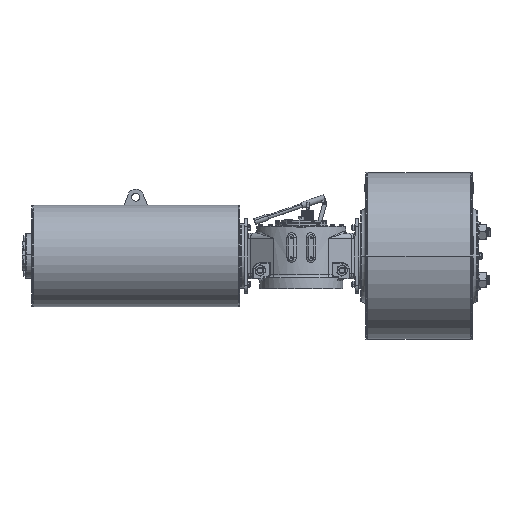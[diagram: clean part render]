
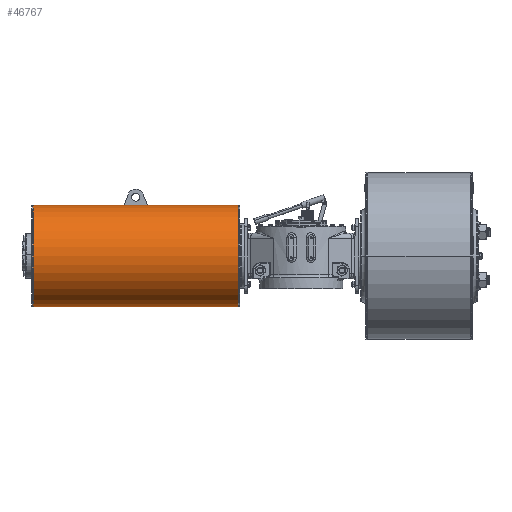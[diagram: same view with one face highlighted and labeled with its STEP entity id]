
A CAD part, front view. The second image highlights one B-rep face of the part: STEP entity #46767.
In plain terms, the highlighted cylindrical face has radius 254 mm (diameter 508 mm), a partial arc.
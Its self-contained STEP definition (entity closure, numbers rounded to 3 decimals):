
#3009 = ORIENTED_EDGE ( 'NONE', *, *, #31172, .T. ) ;
#3061 = DIRECTION ( 'NONE',  ( -1., 0., 0. ) ) ;
#3835 = CARTESIAN_POINT ( 'NONE',  ( -317.5, 135., 366.951 ) ) ;
#5102 = DIRECTION ( 'NONE',  ( -1., 0., 0. ) ) ;
#5151 = EDGE_CURVE ( 'NONE', #65228, #49301, #63353, .T. ) ;
#5231 = VECTOR ( 'NONE', #68768, 1000. ) ;
#8825 = DIRECTION ( 'NONE',  ( 0., 0., -1. ) ) ;
#10475 = CARTESIAN_POINT ( 'NONE',  ( -767.5, 135., 366.951 ) ) ;
#11567 = FACE_OUTER_BOUND ( 'NONE', #80695, .T. ) ;
#11813 = DIRECTION ( 'NONE',  ( 0., 0., -1. ) ) ;
#11872 = LINE ( 'NONE', #3835, #5231 ) ;
#13613 = DIRECTION ( 'NONE',  ( -1., 0., 0. ) ) ;
#15839 = VERTEX_POINT ( 'NONE', #85863 ) ;
#15972 = EDGE_CURVE ( 'NONE', #62227, #16311, #36883, .T. ) ;
#16311 = VERTEX_POINT ( 'NONE', #37236 ) ;
#17606 = AXIS2_PLACEMENT_3D ( 'NONE', #24184, #46749, #30639 ) ;
#19296 = CARTESIAN_POINT ( 'NONE',  ( -887.5, 135., 366.951 ) ) ;
#19357 = ORIENTED_EDGE ( 'NONE', *, *, #91579, .T. ) ;
#19676 = AXIS2_PLACEMENT_3D ( 'NONE', #38435, #72227, #21242 ) ;
#21103 = EDGE_CURVE ( 'NONE', #15839, #65228, #53884, .T. ) ;
#21242 = DIRECTION ( 'NONE',  ( 0., 0., -1. ) ) ;
#21851 = DIRECTION ( 'NONE',  ( -1., 0., 0. ) ) ;
#22298 = CIRCLE ( 'NONE', #77117, 254. ) ;
#22584 = EDGE_CURVE ( 'NONE', #16311, #46429, #54508, .T. ) ;
#23466 = EDGE_CURVE ( 'NONE', #49885, #86598, #11872, .T. ) ;
#24184 = CARTESIAN_POINT ( 'NONE',  ( -1340.5, 140., 113. ) ) ;
#27467 = ORIENTED_EDGE ( 'NONE', *, *, #23466, .F. ) ;
#30165 = ORIENTED_EDGE ( 'NONE', *, *, #75691, .T. ) ;
#30166 = AXIS2_PLACEMENT_3D ( 'NONE', #45360, #5102, #62019 ) ;
#30639 = DIRECTION ( 'NONE',  ( 0., 0., -1. ) ) ;
#31172 = EDGE_CURVE ( 'NONE', #49301, #54619, #63898, .T. ) ;
#32735 = DIRECTION ( 'NONE',  ( 0., 0., -1. ) ) ;
#34342 = AXIS2_PLACEMENT_3D ( 'NONE', #52081, #76186, #11813 ) ;
#36883 = CIRCLE ( 'NONE', #19676, 254. ) ;
#37236 = CARTESIAN_POINT ( 'NONE',  ( -314.5, 140., 367. ) ) ;
#38277 = VERTEX_POINT ( 'NONE', #103373 ) ;
#38435 = CARTESIAN_POINT ( 'NONE',  ( -314.5, 140., 113. ) ) ;
#43779 = AXIS2_PLACEMENT_3D ( 'NONE', #82269, #21851, #8825 ) ;
#45360 = CARTESIAN_POINT ( 'NONE',  ( -317.5, 140., 113. ) ) ;
#46276 = VECTOR ( 'NONE', #86967, 1000. ) ;
#46429 = VERTEX_POINT ( 'NONE', #86728 ) ;
#46471 = CARTESIAN_POINT ( 'NONE',  ( -317.5, 140., 367. ) ) ;
#46749 = DIRECTION ( 'NONE',  ( 1., 0., 0. ) ) ;
#46767 = ADVANCED_FACE ( 'NONE', ( #11567 ), #60427, .T. ) ;
#47346 = LINE ( 'NONE', #55940, #46276 ) ;
#48545 = ORIENTED_EDGE ( 'NONE', *, *, #66610, .F. ) ;
#49301 = VERTEX_POINT ( 'NONE', #88262 ) ;
#49885 = VERTEX_POINT ( 'NONE', #19296 ) ;
#52081 = CARTESIAN_POINT ( 'NONE',  ( -767.5, 140., 113. ) ) ;
#53531 = DIRECTION ( 'NONE',  ( 0., 0., 1. ) ) ;
#53884 = LINE ( 'NONE', #86532, #56198 ) ;
#54508 = LINE ( 'NONE', #46471, #82079 ) ;
#54619 = VERTEX_POINT ( 'NONE', #74285 ) ;
#54841 = CARTESIAN_POINT ( 'NONE',  ( -314.5, -114., 113. ) ) ;
#55940 = CARTESIAN_POINT ( 'NONE',  ( -317.5, 140., -141. ) ) ;
#56198 = VECTOR ( 'NONE', #13613, 1000. ) ;
#60427 = CYLINDRICAL_SURFACE ( 'NONE', #30166, 254. ) ;
#61037 = CARTESIAN_POINT ( 'NONE',  ( -887.5, 140., 113. ) ) ;
#62019 = DIRECTION ( 'NONE',  ( 0., 0., -1. ) ) ;
#62227 = VERTEX_POINT ( 'NONE', #54841 ) ;
#62558 = DIRECTION ( 'NONE',  ( -1., 0., 0. ) ) ;
#63353 = CIRCLE ( 'NONE', #95820, 254. ) ;
#63898 = CIRCLE ( 'NONE', #17606, 254. ) ;
#65228 = VERTEX_POINT ( 'NONE', #90374 ) ;
#66610 = EDGE_CURVE ( 'NONE', #38277, #54619, #47346, .T. ) ;
#66897 = EDGE_CURVE ( 'NONE', #46429, #86598, #68637, .T. ) ;
#68637 = CIRCLE ( 'NONE', #34342, 254. ) ;
#68768 = DIRECTION ( 'NONE',  ( 1., 0., 0. ) ) ;
#70761 = ORIENTED_EDGE ( 'NONE', *, *, #22584, .T. ) ;
#72227 = DIRECTION ( 'NONE',  ( -1., 0., 0. ) ) ;
#72944 = DIRECTION ( 'NONE',  ( 1., 0., 0. ) ) ;
#74285 = CARTESIAN_POINT ( 'NONE',  ( -1340.5, 140., -141. ) ) ;
#75691 = EDGE_CURVE ( 'NONE', #49885, #15839, #22298, .T. ) ;
#76186 = DIRECTION ( 'NONE',  ( 1., 0., 0. ) ) ;
#77117 = AXIS2_PLACEMENT_3D ( 'NONE', #61037, #3061, #53531 ) ;
#79927 = ORIENTED_EDGE ( 'NONE', *, *, #66897, .T. ) ;
#80695 = EDGE_LOOP ( 'NONE', ( #19357, #93543, #70761, #79927, #27467, #30165, #82792, #97984, #3009, #48545 ) ) ;
#82079 = VECTOR ( 'NONE', #62558, 1000. ) ;
#82269 = CARTESIAN_POINT ( 'NONE',  ( -314.5, 140., 113. ) ) ;
#82792 = ORIENTED_EDGE ( 'NONE', *, *, #21103, .T. ) ;
#85863 = CARTESIAN_POINT ( 'NONE',  ( -887.5, 140., 367. ) ) ;
#86532 = CARTESIAN_POINT ( 'NONE',  ( -317.5, 140., 367. ) ) ;
#86598 = VERTEX_POINT ( 'NONE', #10475 ) ;
#86728 = CARTESIAN_POINT ( 'NONE',  ( -767.5, 140., 367. ) ) ;
#86967 = DIRECTION ( 'NONE',  ( -1., 0., 0. ) ) ;
#88262 = CARTESIAN_POINT ( 'NONE',  ( -1340.5, -114., 113. ) ) ;
#90011 = CIRCLE ( 'NONE', #43779, 254. ) ;
#90374 = CARTESIAN_POINT ( 'NONE',  ( -1340.5, 140., 367. ) ) ;
#91579 = EDGE_CURVE ( 'NONE', #38277, #62227, #90011, .T. ) ;
#93543 = ORIENTED_EDGE ( 'NONE', *, *, #15972, .T. ) ;
#95820 = AXIS2_PLACEMENT_3D ( 'NONE', #106125, #72944, #32735 ) ;
#97984 = ORIENTED_EDGE ( 'NONE', *, *, #5151, .T. ) ;
#103373 = CARTESIAN_POINT ( 'NONE',  ( -314.5, 140., -141. ) ) ;
#106125 = CARTESIAN_POINT ( 'NONE',  ( -1340.5, 140., 113. ) ) ;
